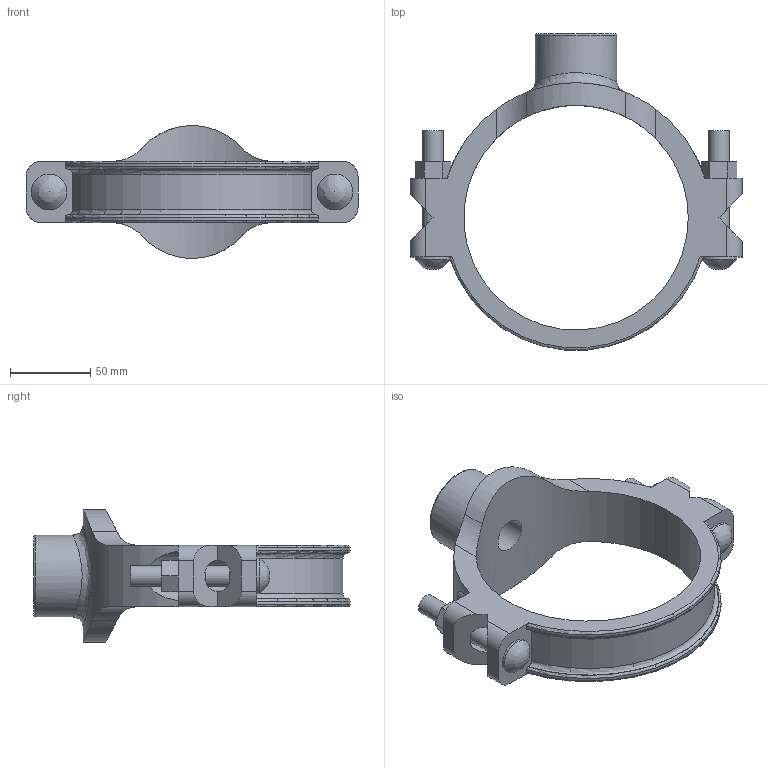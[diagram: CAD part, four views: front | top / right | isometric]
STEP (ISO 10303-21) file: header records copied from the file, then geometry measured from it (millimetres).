
FILE_DESCRIPTION(/* description */ ('VIC SS MECHANICAL T BRANCH OUTLET STYLE 422 (FPT)','CAx-IF Rec.Pracs.---Representation and Presentation of Product Manufacturing Information (PMI)---4.0---2014-10-13'),/* implementation_level */ '2;1');
FILE_NAME(/* name */ 'C:\Files for Export\422\STEP\Victaulic_SS-OGS_Mech-Tee Out_Style 422 (FPT)\Victaulic_SS-OGS_Mech-Tee Out_Style 422 (FPT)_05.0 (139.7)x0.75 (125x20).stp',/* time_stamp */ '2023-03-28T14:29:03+02:00',/* author */ ('jheald'),/* organization */ ('Victaulic'),/* preprocessor_version */ 'ST-DEVELOPER v18.1',/* originating_system */ 'Autodesk Inventor 2020',/* authorisation */ '');
FILE_SCHEMA (('AP242_MANAGED_MODEL_BASED_3D_ENGINEERING_MIM_LF { 1 0 10303 442 1 1 4 }'));
Length unit declared in the file: inch
Products named in the file (1): 422-05.0 (139.7)x0.75
Bounding box: 206.5 x 196.55 x 82.36 mm (x, y, z)
Volume: 365155.8 mm3; surface area: 82329.3 mm2
Topology: 1 solids, 1 shells, 88 faces, 262 edges, 176 vertices
Faces by surface type: plane 44, cylinder 34, torus 7, bspline 3
Full cylindrical faces by diameter (mm): 12.7 x4, 20.93 x1, 22.225 x2, 26.67 x1, 50.8 x1, 139.7 x1
Entity records: 3734 total; most frequent: CARTESIAN_POINT 1122, ORIENTED_EDGE 520, DIRECTION 520, EDGE_CURVE 260, AXIS2_PLACEMENT_3D 190, VERTEX_POINT 176, LINE 140, VECTOR 140
